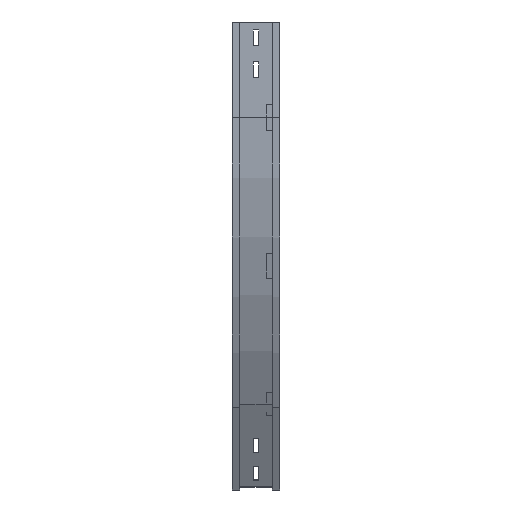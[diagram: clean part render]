
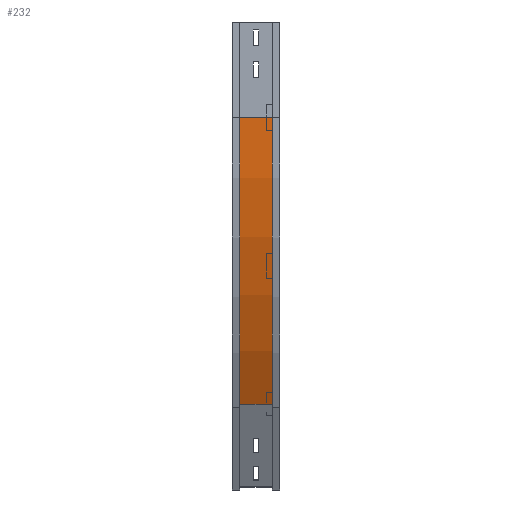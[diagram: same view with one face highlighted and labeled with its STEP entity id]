
A CAD part, left-side view. The second image highlights one B-rep face of the part: STEP entity #232.
In plain terms, the highlighted cylindrical face has radius 900 mm (diameter 1800 mm), a partial arc.
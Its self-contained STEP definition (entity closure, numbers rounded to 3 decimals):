
#3 = CARTESIAN_POINT ( 'NONE',  ( 909., 0., -150. ) ) ;
#224 = DIRECTION ( 'NONE',  ( 0., 0., -1. ) ) ;
#232 = ADVANCED_FACE ( 'NONE', ( #1296 ), #2561, .T. ) ;
#414 = CARTESIAN_POINT ( 'NONE',  ( 9., 12., -150. ) ) ;
#665 = DIRECTION ( 'NONE',  ( -1., 0., 0. ) ) ;
#758 = EDGE_CURVE ( 'NONE', #953, #1489, #2537, .T. ) ;
#774 = CARTESIAN_POINT ( 'NONE',  ( 909., 12., -150. ) ) ;
#825 = AXIS2_PLACEMENT_3D ( 'NONE', #774, #1623, #1604 ) ;
#860 = DIRECTION ( 'NONE',  ( 0., -1., 0. ) ) ;
#863 = CARTESIAN_POINT ( 'NONE',  ( 129.577, 12., -600. ) ) ;
#953 = VERTEX_POINT ( 'NONE', #414 ) ;
#1072 = CIRCLE ( 'NONE', #2279, 900. ) ;
#1220 = VERTEX_POINT ( 'NONE', #2624 ) ;
#1296 = FACE_OUTER_BOUND ( 'NONE', #1868, .T. ) ;
#1297 = CARTESIAN_POINT ( 'NONE',  ( 129.577, 12., -600. ) ) ;
#1367 = ORIENTED_EDGE ( 'NONE', *, *, #2200, .T. ) ;
#1489 = VERTEX_POINT ( 'NONE', #1297 ) ;
#1518 = DIRECTION ( 'NONE',  ( 0., -1., 0. ) ) ;
#1604 = DIRECTION ( 'NONE',  ( -1., 0., 0. ) ) ;
#1623 = DIRECTION ( 'NONE',  ( 0., -1., 0. ) ) ;
#1664 = VECTOR ( 'NONE', #2191, 1000. ) ;
#1722 = DIRECTION ( 'NONE',  ( 0., -1., 0. ) ) ;
#1814 = ORIENTED_EDGE ( 'NONE', *, *, #2666, .F. ) ;
#1868 = EDGE_LOOP ( 'NONE', ( #2332, #1814, #2670, #1367 ) ) ;
#1980 = CARTESIAN_POINT ( 'NONE',  ( 909., 63., -150. ) ) ;
#2122 = VECTOR ( 'NONE', #860, 1000. ) ;
#2174 = LINE ( 'NONE', #863, #1664 ) ;
#2191 = DIRECTION ( 'NONE',  ( 0., -1., 0. ) ) ;
#2200 = EDGE_CURVE ( 'NONE', #2240, #1489, #2174, .T. ) ;
#2240 = VERTEX_POINT ( 'NONE', #2658 ) ;
#2279 = AXIS2_PLACEMENT_3D ( 'NONE', #1980, #1722, #665 ) ;
#2332 = ORIENTED_EDGE ( 'NONE', *, *, #758, .F. ) ;
#2389 = EDGE_CURVE ( 'NONE', #1220, #2240, #1072, .T. ) ;
#2537 = CIRCLE ( 'NONE', #825, 900. ) ;
#2561 = CYLINDRICAL_SURFACE ( 'NONE', #3357, 900. ) ;
#2624 = CARTESIAN_POINT ( 'NONE',  ( 9., 63., -150. ) ) ;
#2658 = CARTESIAN_POINT ( 'NONE',  ( 129.577, 63., -600. ) ) ;
#2666 = EDGE_CURVE ( 'NONE', #1220, #953, #2961, .T. ) ;
#2670 = ORIENTED_EDGE ( 'NONE', *, *, #2389, .T. ) ;
#2961 = LINE ( 'NONE', #3185, #2122 ) ;
#3185 = CARTESIAN_POINT ( 'NONE',  ( 9., 12., -150. ) ) ;
#3357 = AXIS2_PLACEMENT_3D ( 'NONE', #3, #1518, #224 ) ;
